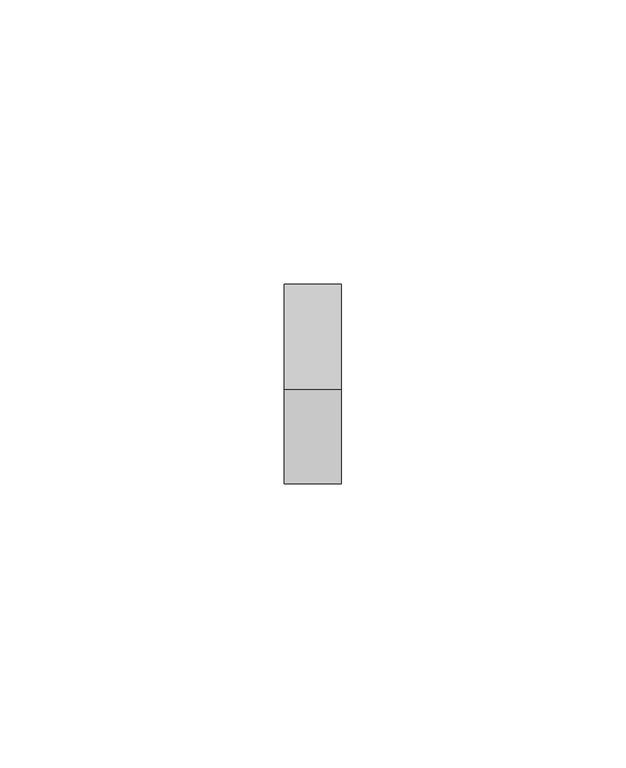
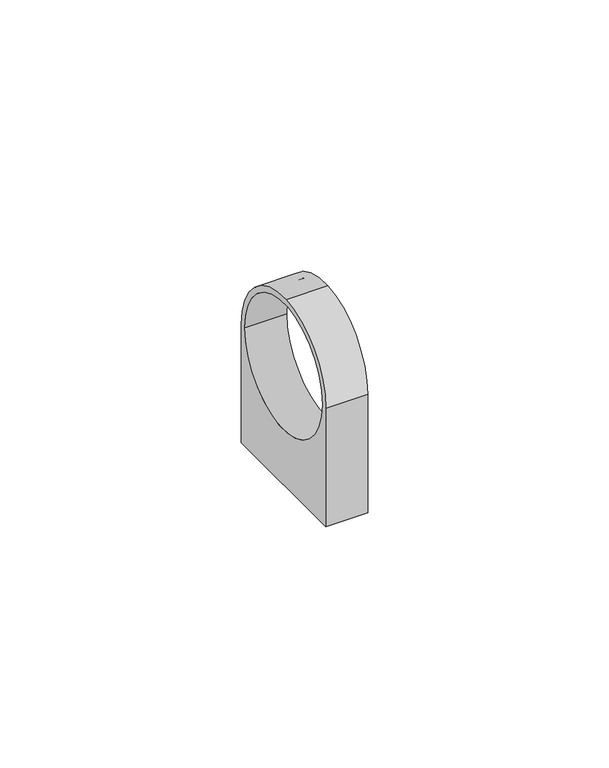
"""IFC4 building model written with IfcOpenShell, lengths in millimetres: cable carrier fitting geometry, Хомутный держатель CFC : CTA10D-CFC32-K41-050."""

from ifc_helpers import new_model, si_unit, point, frame, origin, origin_2d, place, context, project, spatial, polyline, circle_curve, trimmed, segment, composite_curve, outline, extrude, source, transform, mapped, element, save


def cable_carrier_fitting_ed63e5e5(model_context):
    return source(origin(), model_context, "Body", "SweptSolid", [
        extrude(outline(composite_curve([segment(polyline([(-17.5, -30.0), (-17.5, 0.0)]), True, "CONTINUOUS"), segment(trimmed(circle_curve(origin_2d(), 17.5), [point((-17.5, 0.0))], [point((-1.0483988, 17.4685678))], False, "CARTESIAN"), True, "CONTINUOUS"), segment(trimmed(circle_curve(origin_2d(), 17.5), [point((-1.0483988, 17.4685678))], [point((17.5, 0.0))], False, "CARTESIAN"), True, "CONTINUOUS"), segment(polyline([(17.5, 0.0), (17.5, -30.0), (-17.5, -30.0)]), True, "CONTINUOUS")], self_intersect=False), holes=[composite_curve([segment(trimmed(circle_curve(origin_2d(), 16.0), [point((-16.0, 0.0))], [point((16.0, 0.0))], True, "CARTESIAN"), True, "CONTINUOUS"), segment(trimmed(circle_curve(origin_2d(), 16.0), [point((16.0, 0.0))], [point((-16.0, 0.0))], True, "CARTESIAN"), True, "CONTINUOUS")], self_intersect=False)]), frame((-5.0, 0.0, 0.0), z_axis=(1.0, 0.0, 0.0), x_axis=(0.0, 1.0, 0.0)), (0.0, 0.0, 1.0), 10.0),
    ])


if __name__ == "__main__":
    model = new_model("IFC4")
    model_context = context("Model", 3, world=origin())
    ifc_project = project(units=[si_unit("LENGTHUNIT", "METRE", prefix="MILLI")], contexts=[model_context])
    site = spatial("IfcSite", under=ifc_project)
    building = spatial("IfcBuilding", under=site)
    placement = place(None, origin())
    cable_carrier_fitting_shape = cable_carrier_fitting_ed63e5e5(model_context)
    element("IfcCableCarrierFitting", 1, ObjectType="Хомутный держатель CFC : CTA10D-CFC32-K41-050", at=placement, inside=building, context=model_context, shape_type="MappedRepresentation", body=[
        mapped(cable_carrier_fitting_shape, transform((0.0, 0.0, 0.0), x_axis=(1.0, 0.0, 0.0), y_axis=(0.0, 1.0, 0.0), z_axis=(0.0, 0.0, 1.0))),
    ])
    save(model, "model.ifc")
